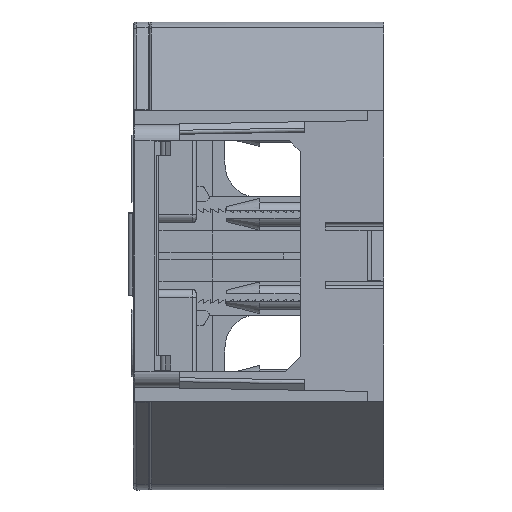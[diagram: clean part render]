
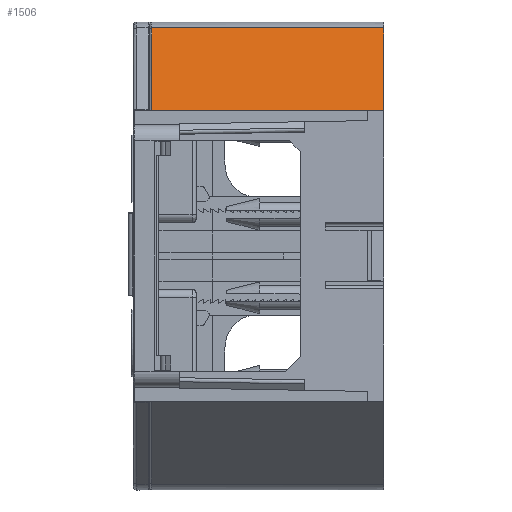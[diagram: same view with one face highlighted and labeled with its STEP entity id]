
A CAD part, left-side view. The second image highlights one B-rep face of the part: STEP entity #1506.
In plain terms, the highlighted planar face has unit normal (-0.514, 0, 0.858).
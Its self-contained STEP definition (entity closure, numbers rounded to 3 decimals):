
#87 = VECTOR ( 'NONE', #31076, 1000. ) ;
#1150 = CARTESIAN_POINT ( 'NONE',  ( 48.833, 27.8, 13.3 ) ) ;
#1506 = ADVANCED_FACE ( 'NONE', ( #4752 ), #21214, .F. ) ;
#4752 = FACE_OUTER_BOUND ( 'NONE', #32460, .T. ) ;
#5003 = DIRECTION ( 'NONE',  ( 0.514, 0., -0.857 ) ) ;
#6167 = CARTESIAN_POINT ( 'NONE',  ( 65.312, 0.2, 23.187 ) ) ;
#9226 = DIRECTION ( 'NONE',  ( -0.857, 0., -0.514 ) ) ;
#9473 = VECTOR ( 'NONE', #9226, 1000. ) ;
#9613 = LINE ( 'NONE', #39100, #18547 ) ;
#13769 = EDGE_CURVE ( 'NONE', #31867, #42654, #34122, .T. ) ;
#14888 = EDGE_CURVE ( 'NONE', #21833, #31867, #18576, .T. ) ;
#17138 = CARTESIAN_POINT ( 'NONE',  ( 57.156, 14., 18.294 ) ) ;
#17396 = CARTESIAN_POINT ( 'NONE',  ( 48.833, 0., 13.3 ) ) ;
#18547 = VECTOR ( 'NONE', #26146, 1000. ) ;
#18576 = LINE ( 'NONE', #6167, #87 ) ;
#21214 = PLANE ( 'NONE',  #50164 ) ;
#21833 = VERTEX_POINT ( 'NONE', #51182 ) ;
#23206 = CARTESIAN_POINT ( 'NONE',  ( 48.833, 22.421, 13.3 ) ) ;
#23278 = VECTOR ( 'NONE', #44343, 1000. ) ;
#25664 = ORIENTED_EDGE ( 'NONE', *, *, #13769, .T. ) ;
#26146 = DIRECTION ( 'NONE',  ( -0.857, 0., -0.514 ) ) ;
#28411 = CARTESIAN_POINT ( 'NONE',  ( 65.312, 27.8, 23.187 ) ) ;
#30319 = ORIENTED_EDGE ( 'NONE', *, *, #45409, .F. ) ;
#31076 = DIRECTION ( 'NONE',  ( 0., 1., 0. ) ) ;
#31867 = VERTEX_POINT ( 'NONE', #28411 ) ;
#32460 = EDGE_LOOP ( 'NONE', ( #51268, #25664, #37775, #30319 ) ) ;
#34122 = LINE ( 'NONE', #1150, #9473 ) ;
#37775 = ORIENTED_EDGE ( 'NONE', *, *, #52305, .F. ) ;
#39100 = CARTESIAN_POINT ( 'NONE',  ( 74.184, 0., 28.51 ) ) ;
#40012 = LINE ( 'NONE', #23206, #23278 ) ;
#42654 = VERTEX_POINT ( 'NONE', #52436 ) ;
#44343 = DIRECTION ( 'NONE',  ( 0., 1., 0. ) ) ;
#45409 = EDGE_CURVE ( 'NONE', #21833, #48745, #9613, .T. ) ;
#48745 = VERTEX_POINT ( 'NONE', #17396 ) ;
#50156 = DIRECTION ( 'NONE',  ( 0., -1., 0. ) ) ;
#50164 = AXIS2_PLACEMENT_3D ( 'NONE', #17138, #5003, #50156 ) ;
#51182 = CARTESIAN_POINT ( 'NONE',  ( 65.312, 0., 23.187 ) ) ;
#51268 = ORIENTED_EDGE ( 'NONE', *, *, #14888, .T. ) ;
#52305 = EDGE_CURVE ( 'NONE', #48745, #42654, #40012, .T. ) ;
#52436 = CARTESIAN_POINT ( 'NONE',  ( 48.833, 27.8, 13.3 ) ) ;
